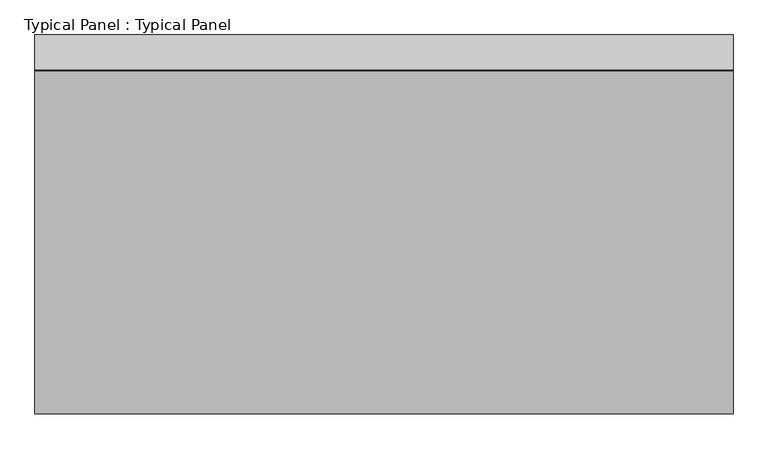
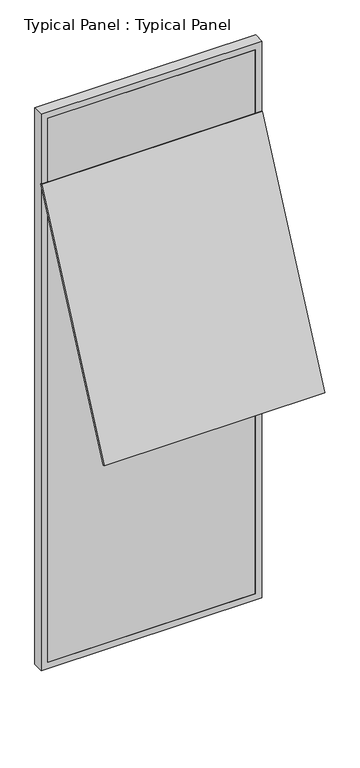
"""IFC4 building model written with IfcOpenShell, lengths in millimetres: plate geometry, Typical Panel : Typical Panel."""

from ifc_helpers import new_model, si_unit, frame, origin, place, context, project, spatial, polyline, outline, extrude, source, transform, mapped, element, save


def typical_panel_typical_panel_519964b2(model_context):
    return source(origin(), model_context, "Body", "SweptSolid", [
        extrude(outline(polyline([(0.0, -10.0), (0.0, 0.0), (1500.0, 0.0), (1500.0, -10.0), (0.0, -10.0)])), frame((750.0, -740.3557754, 1923.0244506), z_axis=(0.0, 0.4226182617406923, 0.9063077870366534), x_axis=(-1.0, 0.0, 0.0)), (0.0, 0.0, 1.0), 1740.0),
        extrude(outline(polyline([(0.0, -750.0), (0.0, 750.0), (4000.0, 750.0), (4000.0, -750.0), (0.0, -750.0)]), holes=[polyline([(45.0, 705.0), (45.0, -705.0), (3955.0, -705.0), (3955.0, 705.0), (45.0, 705.0)])]), frame((0.0, -1.5797986, 0.0), z_axis=(0.0, 1.0, 0.0), x_axis=(0.0, 0.0, 1.0)), (0.0, 0.0, 1.0), 75.0),
        extrude(outline(polyline([(705.0, -1.5797986), (-705.0, -1.5797986), (-705.0, 13.4202014), (705.0, 13.4202014), (705.0, -1.5797986)])), frame((0.0, 0.0, 45.0), z_axis=(0.0, 0.0, 1.0), x_axis=(1.0, 0.0, 0.0)), (0.0, 0.0, 1.0), 3910.0),
    ])


if __name__ == "__main__":
    model = new_model("IFC4")
    model_context = context("Model", 3, world=origin())
    ifc_project = project(units=[si_unit("LENGTHUNIT", "METRE", prefix="MILLI")], contexts=[model_context])
    site = spatial("IfcSite", under=ifc_project)
    building = spatial("IfcBuilding", under=site)
    placement = place(None, origin())
    typical_panel_typical_panel_shape = typical_panel_typical_panel_519964b2(model_context)
    element("IfcPlate", 1, ObjectType="Typical Panel : Typical Panel", at=placement, inside=building, context=model_context, shape_type="MappedRepresentation", body=[
        mapped(typical_panel_typical_panel_shape, transform((0.0, 0.0, 0.0), x_axis=(1.0, 0.0, 0.0), y_axis=(0.0, 1.0, 0.0), z_axis=(0.0, 0.0, 1.0))),
    ])
    save(model, "model.ifc")
